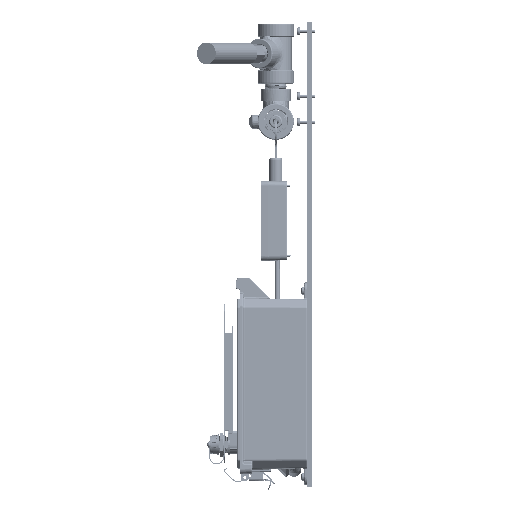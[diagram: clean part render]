
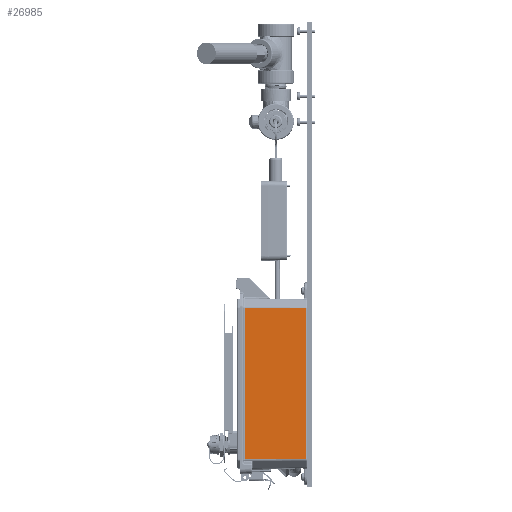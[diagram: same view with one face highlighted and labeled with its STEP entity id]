
A CAD part, top view. The second image highlights one B-rep face of the part: STEP entity #26985.
In plain terms, the highlighted planar face has unit normal (0.018, 0, 1) as drawn and (-0.017, 0, 1) by its records, which use the part's own axes.
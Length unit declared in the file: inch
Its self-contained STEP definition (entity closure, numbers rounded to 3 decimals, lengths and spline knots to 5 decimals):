
#1207 = FACE_OUTER_BOUND ( 'NONE', #148378, .T. ) ;
#24139 = VERTEX_POINT ( 'NONE', #160590 ) ;
#26985 = ADVANCED_FACE ( 'NONE', ( #1207 ), #174804, .T. ) ;
#29557 = CARTESIAN_POINT ( 'NONE',  ( -0.21878, 4.85633, 3.14118 ) ) ;
#32284 = CARTESIAN_POINT ( 'NONE',  ( -0.21878, 3.65683, 3.14118 ) ) ;
#52227 = CARTESIAN_POINT ( 'NONE',  ( -3.18613, -3.63538, 3.08939 ) ) ;
#78382 = CARTESIAN_POINT ( 'NONE',  ( 4.67159, 3.69219, 3.22654 ) ) ;
#107232 = LINE ( 'NONE', #280864, #393443 ) ;
#132129 = DIRECTION ( 'NONE',  ( 1., 0., 0.017 ) ) ;
#143849 = EDGE_CURVE ( 'NONE', #240468, #24139, #107232, .T. ) ;
#145528 = EDGE_CURVE ( 'NONE', #222743, #150835, #419508, .T. ) ;
#148378 = EDGE_LOOP ( 'NONE', ( #162168, #461389, #347790, #402094 ) ) ;
#150835 = VERTEX_POINT ( 'NONE', #32284 ) ;
#160590 = CARTESIAN_POINT ( 'NONE',  ( -3.18613, 3.63538, 3.08939 ) ) ;
#162168 = ORIENTED_EDGE ( 'NONE', *, *, #241876, .T. ) ;
#174804 = PLANE ( 'NONE',  #210061 ) ;
#203164 = DIRECTION ( 'NONE',  ( 0., 1., 0. ) ) ;
#210061 = AXIS2_PLACEMENT_3D ( 'NONE', #348473, #522112, #132129 ) ;
#222743 = VERTEX_POINT ( 'NONE', #462257 ) ;
#225796 = DIRECTION ( 'NONE',  ( 1., -0.007, 0.017 ) ) ;
#240468 = VERTEX_POINT ( 'NONE', #365743 ) ;
#241876 = EDGE_CURVE ( 'NONE', #240468, #222743, #442141, .T. ) ;
#251935 = DIRECTION ( 'NONE',  ( 1., 0.007, 0.017 ) ) ;
#273381 = EDGE_CURVE ( 'NONE', #24139, #150835, #468320, .T. ) ;
#280864 = CARTESIAN_POINT ( 'NONE',  ( -3.18613, 3.67756, 3.08939 ) ) ;
#347790 = ORIENTED_EDGE ( 'NONE', *, *, #273381, .F. ) ;
#348473 = CARTESIAN_POINT ( 'NONE',  ( 0., 4.85633, 3.145 ) ) ;
#362340 = VECTOR ( 'NONE', #225796, 39.37008 ) ;
#365743 = CARTESIAN_POINT ( 'NONE',  ( -3.18613, -3.63538, 3.08939 ) ) ;
#393443 = VECTOR ( 'NONE', #454496, 39.37008 ) ;
#402094 = ORIENTED_EDGE ( 'NONE', *, *, #143849, .F. ) ;
#419508 = LINE ( 'NONE', #29557, #547450 ) ;
#442141 = LINE ( 'NONE', #52227, #362340 ) ;
#454496 = DIRECTION ( 'NONE',  ( 0., 1., 0. ) ) ;
#461389 = ORIENTED_EDGE ( 'NONE', *, *, #145528, .T. ) ;
#462257 = CARTESIAN_POINT ( 'NONE',  ( -0.21878, -3.65683, 3.14118 ) ) ;
#468320 = LINE ( 'NONE', #78382, #472470 ) ;
#472470 = VECTOR ( 'NONE', #251935, 39.37008 ) ;
#522112 = DIRECTION ( 'NONE',  ( -0.017, 0., 1. ) ) ;
#547450 = VECTOR ( 'NONE', #203164, 39.37008 ) ;
